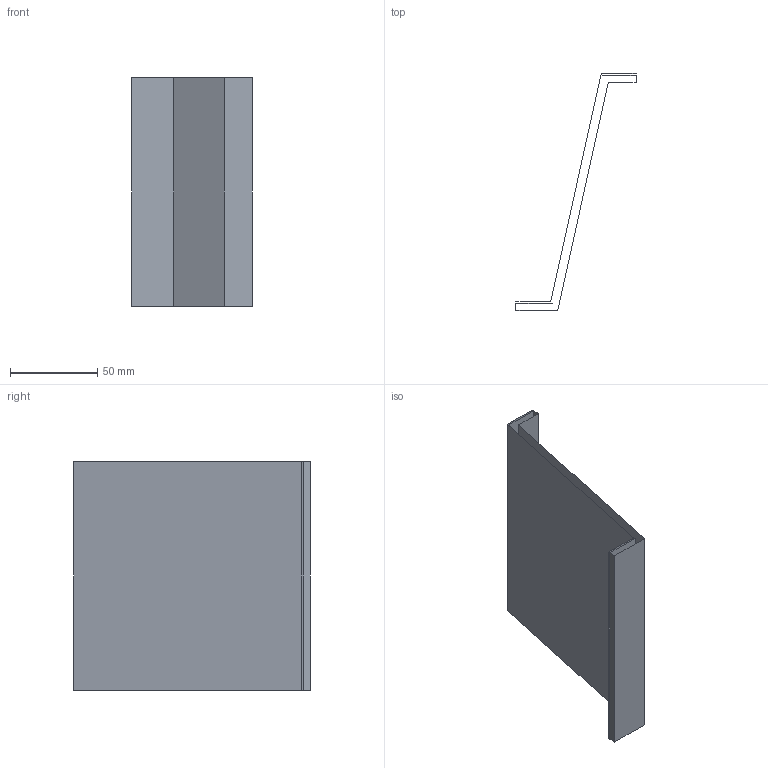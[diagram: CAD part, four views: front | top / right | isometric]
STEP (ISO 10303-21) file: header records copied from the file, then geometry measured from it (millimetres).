
FILE_DESCRIPTION(('CATIA V5 STEP Exchange'),'2;1');
FILE_NAME('C:\_Andres\UNIVERSIDAD\IQS\ASIGNATURAS\DAO\EXF\EXF-16172c\2inicio\Sanz_Alvarez_Ej06_v31.stp','2017-03-05T21:01:28+00:00',('none'),('none'),'CATIA Version 5-6 Release 2014 SP1 HF18','CATIA V5 STEP AP203','none');
FILE_SCHEMA(('CONFIG_CONTROL_DESIGN'));
Length unit declared in the file: millimetre
Products named in the file (1): Sanz_Alvarez_Ej06_v31
Bounding box: 69 x 136 x 131 mm (x, y, z)
Surface area: 51920.9 mm2 (no closed solid volume)
Topology: 0 solids, 2 shells, 10 faces, 42 edges, 36 vertices
Faces by surface type: plane 10
Entity records: 461 total; most frequent: CARTESIAN_POINT 100, DIRECTION 59, ORIENTED_EDGE 40, VECTOR 39, LINE 39, EDGE_CURVE 32, VERTEX_POINT 24, AXIS2_PLACEMENT_3D 11
